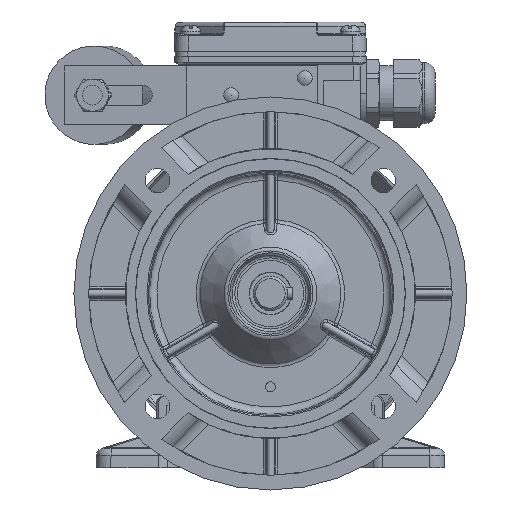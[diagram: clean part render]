
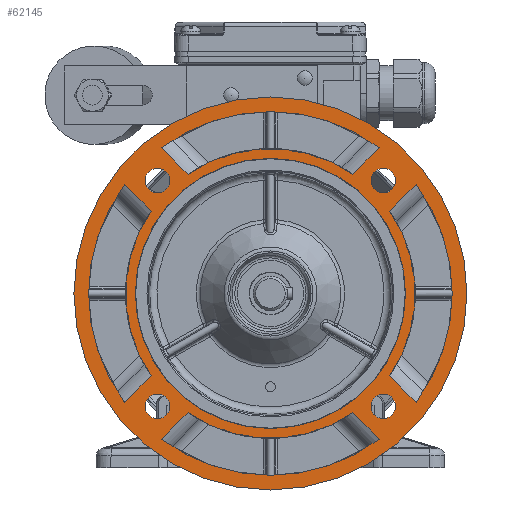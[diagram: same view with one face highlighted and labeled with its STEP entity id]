
A CAD part, front view. The second image highlights one B-rep face of the part: STEP entity #62145.
In plain terms, the highlighted planar face has unit normal (0, -1, 0).
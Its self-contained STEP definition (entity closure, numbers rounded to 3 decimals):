
#464=LINE('',#83819,#3465);
#465=LINE('',#83833,#3466);
#466=LINE('',#83842,#3467);
#467=LINE('',#83861,#3468);
#468=LINE('',#83873,#3469);
#469=LINE('',#83887,#3470);
#470=LINE('',#83913,#3471);
#471=LINE('',#83922,#3472);
#3465=VECTOR('',#69297,1000.);
#3466=VECTOR('',#69304,1000.);
#3467=VECTOR('',#69311,1000.);
#3468=VECTOR('',#69318,1000.);
#3469=VECTOR('',#69329,1000.);
#3470=VECTOR('',#69336,1000.);
#3471=VECTOR('',#69347,1000.);
#3472=VECTOR('',#69354,1000.);
#13085=ORIENTED_EDGE('',*,*,#25047,.F.);
#13086=ORIENTED_EDGE('',*,*,#25048,.F.);
#13087=ORIENTED_EDGE('',*,*,#25049,.F.);
#13088=ORIENTED_EDGE('',*,*,#25050,.F.);
#13089=ORIENTED_EDGE('',*,*,#23551,.F.);
#13090=ORIENTED_EDGE('',*,*,#23549,.F.);
#13091=ORIENTED_EDGE('',*,*,#23548,.T.);
#13092=ORIENTED_EDGE('',*,*,#23545,.T.);
#13093=ORIENTED_EDGE('',*,*,#23543,.F.);
#13094=ORIENTED_EDGE('',*,*,#23541,.T.);
#13095=ORIENTED_EDGE('',*,*,#23539,.T.);
#13096=ORIENTED_EDGE('',*,*,#23537,.F.);
#13097=ORIENTED_EDGE('',*,*,#23535,.F.);
#13098=ORIENTED_EDGE('',*,*,#23534,.F.);
#13099=ORIENTED_EDGE('',*,*,#23533,.T.);
#13100=ORIENTED_EDGE('',*,*,#23530,.T.);
#13101=ORIENTED_EDGE('',*,*,#23528,.F.);
#13102=ORIENTED_EDGE('',*,*,#23526,.F.);
#13103=ORIENTED_EDGE('',*,*,#23525,.T.);
#13104=ORIENTED_EDGE('',*,*,#23522,.T.);
#13105=ORIENTED_EDGE('',*,*,#23521,.F.);
#13106=ORIENTED_EDGE('',*,*,#25046,.T.);
#23521=EDGE_CURVE('',#30093,#30092,#464,.T.);
#23522=EDGE_CURVE('',#30094,#30092,#34344,.T.);
#23525=EDGE_CURVE('',#30095,#30094,#465,.T.);
#23526=EDGE_CURVE('',#30095,#30093,#34345,.T.);
#23528=EDGE_CURVE('',#30096,#30097,#466,.T.);
#23530=EDGE_CURVE('',#30098,#30097,#34346,.T.);
#23533=EDGE_CURVE('',#30099,#30098,#467,.T.);
#23534=EDGE_CURVE('',#30099,#30096,#34347,.T.);
#23535=EDGE_CURVE('',#30100,#30100,#34348,.T.);
#23537=EDGE_CURVE('',#30101,#30102,#468,.T.);
#23539=EDGE_CURVE('',#30103,#30102,#34349,.T.);
#23541=EDGE_CURVE('',#30104,#30103,#469,.T.);
#23543=EDGE_CURVE('',#30104,#30101,#34350,.T.);
#23545=EDGE_CURVE('',#30106,#30105,#34351,.T.);
#23548=EDGE_CURVE('',#30107,#30106,#470,.T.);
#23549=EDGE_CURVE('',#30107,#30108,#34352,.T.);
#23551=EDGE_CURVE('',#30108,#30105,#471,.T.);
#25046=EDGE_CURVE('',#31093,#31093,#34857,.T.);
#25047=EDGE_CURVE('',#31094,#31094,#34858,.T.);
#25048=EDGE_CURVE('',#31095,#31095,#34859,.T.);
#25049=EDGE_CURVE('',#31096,#31096,#34860,.T.);
#25050=EDGE_CURVE('',#31097,#31097,#34861,.T.);
#30092=VERTEX_POINT('',#83813);
#30093=VERTEX_POINT('',#83818);
#30094=VERTEX_POINT('',#83822);
#30095=VERTEX_POINT('',#83832);
#30096=VERTEX_POINT('',#83841);
#30097=VERTEX_POINT('',#83843);
#30098=VERTEX_POINT('',#83850);
#30099=VERTEX_POINT('',#83860);
#30100=VERTEX_POINT('',#83866);
#30101=VERTEX_POINT('',#83872);
#30102=VERTEX_POINT('',#83874);
#30103=VERTEX_POINT('',#83881);
#30104=VERTEX_POINT('',#83888);
#30105=VERTEX_POINT('',#83900);
#30106=VERTEX_POINT('',#83902);
#30107=VERTEX_POINT('',#83912);
#30108=VERTEX_POINT('',#83916);
#31093=VERTEX_POINT('',#87121);
#31094=VERTEX_POINT('',#87124);
#31095=VERTEX_POINT('',#87126);
#31096=VERTEX_POINT('',#87128);
#31097=VERTEX_POINT('',#87130);
#34344=CIRCLE('',#64362,59.);
#34345=CIRCLE('',#64365,74.);
#34346=CIRCLE('',#64368,59.);
#34347=CIRCLE('',#64371,74.);
#34348=CIRCLE('',#64373,55.);
#34349=CIRCLE('',#64376,59.);
#34350=CIRCLE('',#64379,74.);
#34351=CIRCLE('',#64381,59.);
#34352=CIRCLE('',#64384,74.);
#34857=CIRCLE('',#65399,80.);
#34858=CIRCLE('',#65401,5.);
#34859=CIRCLE('',#65402,5.);
#34860=CIRCLE('',#65403,5.);
#34861=CIRCLE('',#65404,5.);
#36961=EDGE_LOOP('',(#13085));
#36962=EDGE_LOOP('',(#13086));
#36963=EDGE_LOOP('',(#13087));
#36964=EDGE_LOOP('',(#13088));
#36965=EDGE_LOOP('',(#13089,#13090,#13091,#13092));
#36966=EDGE_LOOP('',(#13093,#13094,#13095,#13096));
#36967=EDGE_LOOP('',(#13097));
#36968=EDGE_LOOP('',(#13098,#13099,#13100,#13101));
#36969=EDGE_LOOP('',(#13102,#13103,#13104,#13105));
#36970=EDGE_LOOP('',(#13106));
#39992=FACE_BOUND('',#36961,.T.);
#39993=FACE_BOUND('',#36962,.T.);
#39994=FACE_BOUND('',#36963,.T.);
#39995=FACE_BOUND('',#36964,.T.);
#39996=FACE_BOUND('',#36965,.T.);
#39997=FACE_BOUND('',#36966,.T.);
#39998=FACE_BOUND('',#36967,.T.);
#39999=FACE_BOUND('',#36968,.T.);
#40000=FACE_BOUND('',#36969,.T.);
#40001=FACE_BOUND('',#36970,.T.);
#42437=PLANE('',#65400);
#62145=ADVANCED_FACE('',(#39992,#39993,#39994,#39995,#39996,#39997,#39998,
#39999,#40000,#40001),#42437,.F.);
#64362=AXIS2_PLACEMENT_3D('',#83821,#69300,#69301);
#64365=AXIS2_PLACEMENT_3D('',#83835,#69307,#69308);
#64368=AXIS2_PLACEMENT_3D('',#83849,#69314,#69315);
#64371=AXIS2_PLACEMENT_3D('',#83863,#69321,#69322);
#64373=AXIS2_PLACEMENT_3D('',#83865,#69325,#69326);
#64376=AXIS2_PLACEMENT_3D('',#83880,#69332,#69333);
#64379=AXIS2_PLACEMENT_3D('',#83894,#69339,#69340);
#64381=AXIS2_PLACEMENT_3D('',#83901,#69343,#69344);
#64384=AXIS2_PLACEMENT_3D('',#83915,#69350,#69351);
#65399=AXIS2_PLACEMENT_3D('',#87120,#72341,#72342);
#65400=AXIS2_PLACEMENT_3D('',#87122,#72343,#72344);
#65401=AXIS2_PLACEMENT_3D('',#87123,#72345,#72346);
#65402=AXIS2_PLACEMENT_3D('',#87125,#72347,#72348);
#65403=AXIS2_PLACEMENT_3D('',#87127,#72349,#72350);
#65404=AXIS2_PLACEMENT_3D('',#87129,#72351,#72352);
#69297=DIRECTION('',(-0.707,0.,-0.707));
#69300=DIRECTION('',(0.,-1.,0.));
#69301=DIRECTION('',(0.,0.,-1.));
#69304=DIRECTION('',(-0.707,0.,0.707));
#69307=DIRECTION('',(0.,-1.,0.));
#69308=DIRECTION('',(0.,0.,-1.));
#69311=DIRECTION('',(-0.707,0.,0.707));
#69314=DIRECTION('',(0.,-1.,0.));
#69315=DIRECTION('',(0.,0.,-1.));
#69318=DIRECTION('',(0.707,0.,0.707));
#69321=DIRECTION('',(0.,-1.,0.));
#69322=DIRECTION('',(0.,0.,-1.));
#69325=DIRECTION('',(0.,-1.,0.));
#69326=DIRECTION('',(0.,0.,-1.));
#69329=DIRECTION('',(0.707,0.,0.707));
#69332=DIRECTION('',(0.,-1.,0.));
#69333=DIRECTION('',(0.,0.,-1.));
#69336=DIRECTION('',(0.707,0.,-0.707));
#69339=DIRECTION('',(0.,-1.,0.));
#69340=DIRECTION('',(0.,0.,-1.));
#69343=DIRECTION('',(0.,-1.,0.));
#69344=DIRECTION('',(0.,0.,-1.));
#69347=DIRECTION('',(-0.707,0.,-0.707));
#69350=DIRECTION('',(0.,-1.,0.));
#69351=DIRECTION('',(0.,0.,-1.));
#69354=DIRECTION('',(0.707,0.,-0.707));
#72341=DIRECTION('',(0.,-1.,0.));
#72342=DIRECTION('',(0.,0.,-1.));
#72343=DIRECTION('',(0.,1.,0.));
#72344=DIRECTION('',(0.,0.,1.));
#72345=DIRECTION('',(0.,-1.,0.));
#72346=DIRECTION('',(1.,0.,0.));
#72347=DIRECTION('',(0.,-1.,0.));
#72348=DIRECTION('',(1.,0.,0.));
#72349=DIRECTION('',(0.,-1.,0.));
#72350=DIRECTION('',(1.,0.,0.));
#72351=DIRECTION('',(0.,-1.,0.));
#72352=DIRECTION('',(1.,0.,0.));
#83813=CARTESIAN_POINT('',(48.549,-41.,33.526));
#83818=CARTESIAN_POINT('',(59.295,-41.,44.273));
#83819=CARTESIAN_POINT('',(59.837,-41.,44.815));
#83821=CARTESIAN_POINT('',(0.,-41.,0.));
#83822=CARTESIAN_POINT('',(48.549,-41.,-33.526));
#83832=CARTESIAN_POINT('',(59.295,-41.,-44.273));
#83833=CARTESIAN_POINT('',(59.837,-41.,-44.815));
#83835=CARTESIAN_POINT('',(0.,-41.,0.));
#83841=CARTESIAN_POINT('',(44.273,-41.,-59.295));
#83842=CARTESIAN_POINT('',(44.815,-41.,-59.837));
#83843=CARTESIAN_POINT('',(33.526,-41.,-48.549));
#83849=CARTESIAN_POINT('',(0.,-41.,0.));
#83850=CARTESIAN_POINT('',(-33.526,-41.,-48.549));
#83860=CARTESIAN_POINT('',(-44.273,-41.,-59.295));
#83861=CARTESIAN_POINT('',(-44.815,-41.,-59.837));
#83863=CARTESIAN_POINT('',(0.,-41.,0.));
#83865=CARTESIAN_POINT('',(0.,-41.,0.));
#83866=CARTESIAN_POINT('',(0.,-41.,-55.));
#83872=CARTESIAN_POINT('',(-59.295,-41.,-44.273));
#83873=CARTESIAN_POINT('',(-59.837,-41.,-44.815));
#83874=CARTESIAN_POINT('',(-48.549,-41.,-33.526));
#83880=CARTESIAN_POINT('',(0.,-41.,0.));
#83881=CARTESIAN_POINT('',(-48.549,-41.,33.526));
#83887=CARTESIAN_POINT('',(-59.837,-41.,44.815));
#83888=CARTESIAN_POINT('',(-59.295,-41.,44.273));
#83894=CARTESIAN_POINT('',(0.,-41.,0.));
#83900=CARTESIAN_POINT('',(-33.526,-41.,48.549));
#83901=CARTESIAN_POINT('',(0.,-41.,0.));
#83902=CARTESIAN_POINT('',(33.526,-41.,48.549));
#83912=CARTESIAN_POINT('',(44.273,-41.,59.295));
#83913=CARTESIAN_POINT('',(44.815,-41.,59.837));
#83915=CARTESIAN_POINT('',(0.,-41.,0.));
#83916=CARTESIAN_POINT('',(-44.273,-41.,59.295));
#83922=CARTESIAN_POINT('',(-44.815,-41.,59.837));
#87120=CARTESIAN_POINT('',(0.,-41.,0.));
#87121=CARTESIAN_POINT('',(0.,-41.,-80.));
#87122=CARTESIAN_POINT('',(0.,-41.,55.));
#87123=CARTESIAN_POINT('',(45.962,-41.,45.962));
#87124=CARTESIAN_POINT('',(50.962,-41.,45.962));
#87125=CARTESIAN_POINT('',(45.962,-41.,-45.962));
#87126=CARTESIAN_POINT('',(50.962,-41.,-45.962));
#87127=CARTESIAN_POINT('',(-45.962,-41.,-45.962));
#87128=CARTESIAN_POINT('',(-40.962,-41.,-45.962));
#87129=CARTESIAN_POINT('',(-45.962,-41.,45.962));
#87130=CARTESIAN_POINT('',(-40.962,-41.,45.962));
